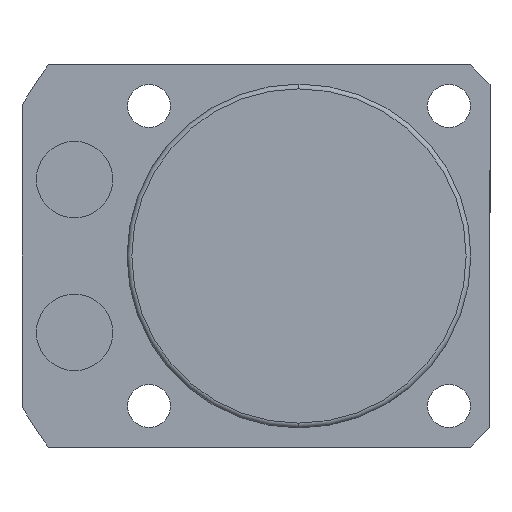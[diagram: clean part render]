
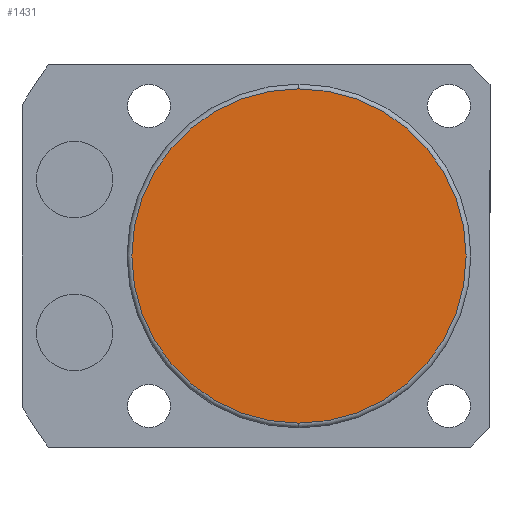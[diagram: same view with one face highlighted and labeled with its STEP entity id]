
A CAD part, front view. The second image highlights one B-rep face of the part: STEP entity #1431.
In plain terms, the highlighted planar face has unit normal (0, -1, 0).
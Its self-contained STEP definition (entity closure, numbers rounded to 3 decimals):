
#230 = CARTESIAN_POINT ( 'NONE',  ( 0., -65.5, 0. ) ) ;
#468 = VERTEX_POINT ( 'NONE', #2679 ) ;
#618 = DIRECTION ( 'NONE',  ( 0., 0., -1. ) ) ;
#816 = FACE_OUTER_BOUND ( 'NONE', #3918, .T. ) ;
#846 = AXIS2_PLACEMENT_3D ( 'NONE', #2154, #2126, #4852 ) ;
#1223 = EDGE_CURVE ( 'NONE', #4815, #468, #1436, .T. ) ;
#1431 = ADVANCED_FACE ( 'NONE', ( #816 ), #1879, .T. ) ;
#1436 = CIRCLE ( 'NONE', #3716, 17.5 ) ;
#1488 = ORIENTED_EDGE ( 'NONE', *, *, #1223, .T. ) ;
#1876 = ORIENTED_EDGE ( 'NONE', *, *, #3220, .T. ) ;
#1879 = PLANE ( 'NONE',  #4228 ) ;
#2126 = DIRECTION ( 'NONE',  ( 0., -1., 0. ) ) ;
#2154 = CARTESIAN_POINT ( 'NONE',  ( 0., -65.5, 0. ) ) ;
#2317 = DIRECTION ( 'NONE',  ( 0., 0., -1. ) ) ;
#2679 = CARTESIAN_POINT ( 'NONE',  ( 0., -65.5, -17.5 ) ) ;
#2914 = DIRECTION ( 'NONE',  ( 0., -1., 0. ) ) ;
#3220 = EDGE_CURVE ( 'NONE', #468, #4815, #3932, .T. ) ;
#3495 = CARTESIAN_POINT ( 'NONE',  ( 0., -65.5, 17.5 ) ) ;
#3716 = AXIS2_PLACEMENT_3D ( 'NONE', #230, #2914, #618 ) ;
#3918 = EDGE_LOOP ( 'NONE', ( #1876, #1488 ) ) ;
#3932 = CIRCLE ( 'NONE', #846, 17.5 ) ;
#4228 = AXIS2_PLACEMENT_3D ( 'NONE', #4261, #5072, #2317 ) ;
#4261 = CARTESIAN_POINT ( 'NONE',  ( 0., -65.5, 0. ) ) ;
#4815 = VERTEX_POINT ( 'NONE', #3495 ) ;
#4852 = DIRECTION ( 'NONE',  ( 0., 0., -1. ) ) ;
#5072 = DIRECTION ( 'NONE',  ( 0., -1., 0. ) ) ;
